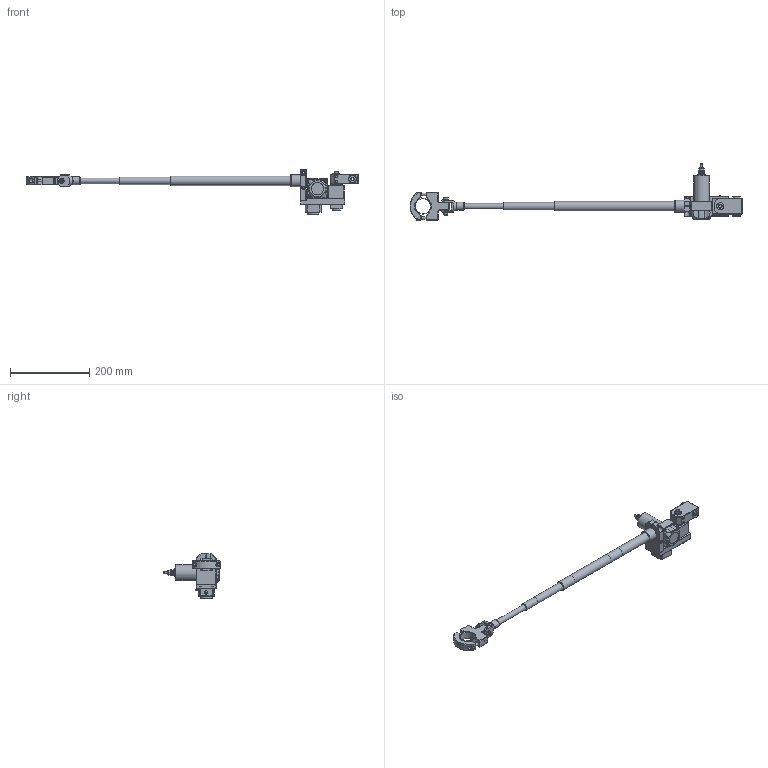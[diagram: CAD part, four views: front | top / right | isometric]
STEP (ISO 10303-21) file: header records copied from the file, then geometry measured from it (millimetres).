
FILE_DESCRIPTION( ( 'Unknown' ), '1' );
FILE_NAME( 'E:/0 Travail/0 Travaux en cours/Doga/Assemblage 2014/BIBLIOTEQUE 3D/Assemblage 2011/11-25-3636 DOGA/4-1200662-bras DMF 30 LAPC_960/4-1200662-bras DMF 30 LAPC_960.stp', 'Unknown', ( 'Unknown' ), ( 'Unknown' ), 'PSStep 14.0', 'Unknown', ' ' );
FILE_SCHEMA( ( 'AUTOMOTIVE_DESIGN { 1 0 10303 214 1 1 1 1 }' ) );
Length unit declared in the file: millimetre
Products named in the file (61): Asm Jonc 14  std pour DMF30 PC; 08 Z; Goupille élastique; 06 Z; CHc washer head screw M6 x 30; Jonc 14 std pour DMF30 SP ; Chape pince pour DMF30; Tube 14,2x16-oa2; H M06 Nyl; Asm Tube 19 std pour DMF30 PC; Tube 14,2x16; Tube 19,2x20,8-oa1; Tube 16,2x19 std pour DMF30 PC; Asm Tube 24 standart pour DMF30 PC; bague de serrage pour DMF30 PC; Tube 21x24 pour DMF 30 PC; Tube 19,2x20,8; Asm Pince pour DMF30; Pince pour DMF30; Placement; Collier; CHC M6x45 fileté sous tete; CHC M6x45 fileté sous tete-oa3; axe dia16 pour capteur d'angle assemblé DMF30 PC; Aimant; Rondelle AS1226; Rondelle AS1226-oa0; Butée à aiguilles AXK1226; Anneau élastique pour arbre 12; Axe Ø16 pour DMF30 PC ; SX50-1250-10V-KA-M4; SX50-1250-10V-KA-M4_12; SX50-1250-10V-KA-M4_13; SX50-1250-10V-KA-M4_10; SX50-1250-10V-KA-M4_11; SX50-1250-10V-KA-M4_14; SX50-1250-10V-KA-M4_15; SX50-1250-10V-KA-M4_1; SX50-1250-10V-KA-M4_7; SX50-1250-10V-KA-M4_4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
Assembly tree (62 placements, depth 4):
  Assem1
    Axe pour équerre DMF 30 et 80 APC
    platine support capteur DMF30 PC
    platine fixation carbone pour DMF30 PC
    fourreau  pour DMF30 PC
    Capteur de position angulaire QUADRO-R
    Boitier de dérivation
    Rondelle AS1730  x2
    Butée à aiguilles AXK1730
    support fixation bras DMF30 et 80 LAPC
    CHC M6x12
    Roulement à aiguilles HK1616  x2
    06 L
    Rondelle pour axe équerre DMF30 et 80 APC
    SX50-1250-10V-KA-M4
      SX50-1250-10V-KA-M4_12
      SX50-1250-10V-KA-M4_13
      SX50-1250-10V-KA-M4_10
      SX50-1250-10V-KA-M4_11
      SX50-1250-10V-KA-M4_14
      SX50-1250-10V-KA-M4_15
      SX50-1250-10V-KA-M4_1
      SX50-1250-10V-KA-M4_7
      SX50-1250-10V-KA-M4
      SX50-1250-10V-KA-M4_4
      SX50-1250-10V-KA-M4_2
      SX50-1250-10V-KA-M4_3
      SX50-1250-10V-KA-M4_6
      SX50-1250-10V-KA-M4_5
      SX50-1250-10V-KA-M4_16
    axe dia16 pour capteur d'angle assemblé DMF30 PC
      Aimant
      Rondelle AS1226
      Rondelle AS1226-oa0
      Butée à aiguilles AXK1226
      Anneau élastique pour arbre 12
      Axe Ø16 pour DMF30 PC 
    sous-ensemble carbone pour DMF30 PC
      Asm Tube 24 standart pour DMF30 PC
        bague de serrage pour DMF30 PC
        Tube 21x24 pour DMF 30 PC
        Tube 19,2x20,8
      Asm Tube 19 std pour DMF30 PC
        Tube 14,2x16
        Tube 19,2x20,8-oa1
        Tube 16,2x19 std pour DMF30 PC
      Asm Jonc 14  std pour DMF30 PC
        08 Z
        Goupille élastique
        06 Z
        CHc washer head screw M6 x 30
        Jonc 14 std pour DMF30 SP 
        Chape pince pour DMF30
        Tube 14,2x16-oa2
        H M06 Nyl
      Asm Pince pour DMF30
        Pince pour DMF30
        Placement
        Collier
        CHC M6x45 fileté sous tete
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Bounding box: 839.79 x 142 x 112.7 mm (x, y, z)
Volume: 470160.1 mm3; surface area: 279334.9 mm2
Topology: 40 solids, 209 shells, 1134 faces, 3283 edges, 2375 vertices
Faces by surface type: plane 564, cylinder 459, cone 80, revolution 14, torus 12, bspline 3, sphere 2
Full cylindrical faces by diameter (mm): 1 x2, 1.221 x1, 2.459 x7, 2.5 x4, 3.1 x3, 3.2 x5, 3.242 x2, 3.5 x1, 4.134 x10, 4.3 x2, 4.5 x1, 4.917 x8, 4.918 x1, 5 x3, 5.2 x4, 5.8 x3, 6 x12, 6.2 x4, 6.5 x2, 6.647 x3, 7 x5, 8 x7, 8.2 x2, 8.5 x1, 9 x4, 9.3 x1, 9.547 x1, 10 x4, 10.5 x2, 11.5 x1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
Entity records: 52840 total; most frequent: CARTESIAN_POINT 18261, DIRECTION 5248, ORIENTED_EDGE 4826, EDGE_CURVE 2912, VERTEX_POINT 2284, AXIS2_PLACEMENT_3D 2024, EDGE_LOOP 1570, LINE 1186
